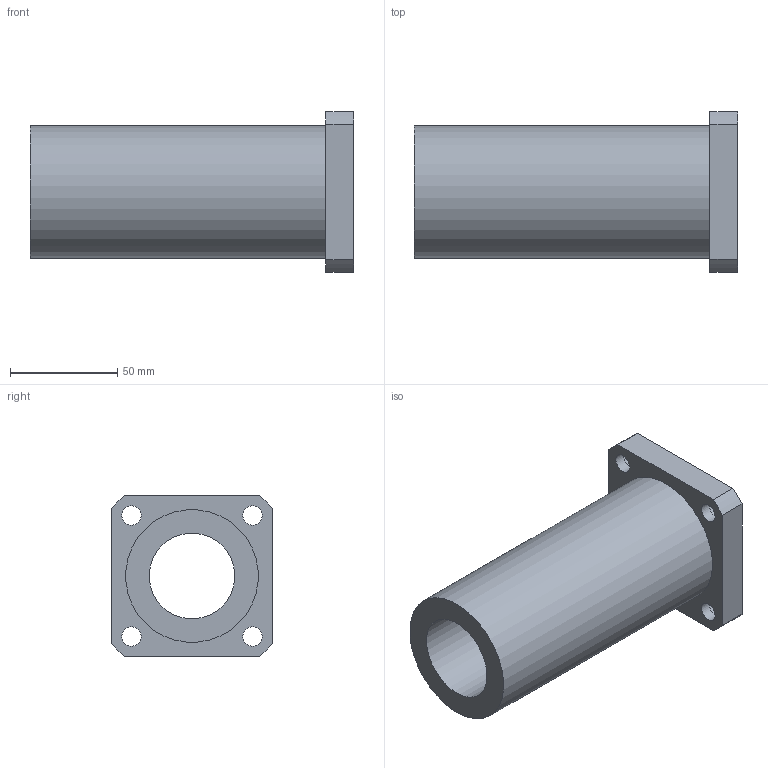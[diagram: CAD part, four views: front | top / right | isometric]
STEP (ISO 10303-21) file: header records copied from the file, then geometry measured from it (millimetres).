
FILE_DESCRIPTION(/* description */ (''),/* implementation_level */ '2;1');
FILE_NAME(/* name */ 'LMEK40LUU',/* time_stamp */ '2019-07-02T15:24:26+02:00',/* author */ ('VĂ©gh MĂˇtĂ©'),/* organization */ ('Bearing Kft'),/* preprocessor_version */ 'ST-DEVELOPER v16.7',/* originating_system */ 'DEX',/* authorisation */ $);
FILE_SCHEMA (('AUTOMOTIVE_DESIGN {1 0 10303 214 3 1 1}'));
Length unit declared in the file: millimetre
Products named in the file (1): LMEK40LUU
Bounding box: 151 x 75 x 75 mm (x, y, z)
Volume: 292885.1 mm3; surface area: 59691.4 mm2
Topology: 1 solids, 1 shells, 353 faces, 891 edges, 594 vertices
Faces by surface type: plane 280, bspline 57, cylinder 16
Full cylindrical faces by diameter (mm): 9 x4, 14 x4, 40 x1, 62 x1
Entity records: 13680 total; most frequent: CARTESIAN_POINT 5523, ORIENTED_EDGE 1756, DIRECTION 1390, EDGE_CURVE 878, LINE 732, VECTOR 732, VERTEX_POINT 594, EDGE_LOOP 430
